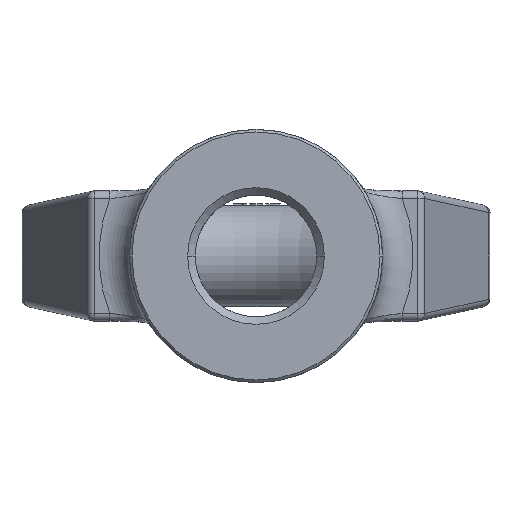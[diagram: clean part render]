
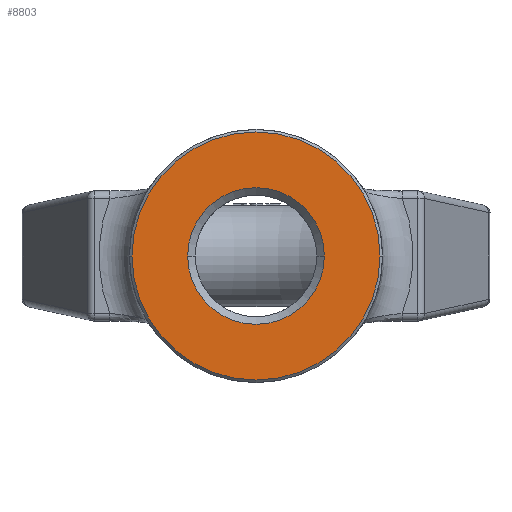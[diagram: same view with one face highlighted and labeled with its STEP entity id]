
A CAD part, front view. The second image highlights one B-rep face of the part: STEP entity #8803.
In plain terms, the highlighted planar face has unit normal (0, -1, 0).
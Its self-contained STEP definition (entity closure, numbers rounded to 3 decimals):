
#1973=CARTESIAN_POINT('',(0.,-44.5,0.));
#1974=DIRECTION('',(0.,-1.,0.));
#1975=DIRECTION('',(-1.,0.,0.));
#1976=AXIS2_PLACEMENT_3D('',#1973,#1974,#1975);
#1978=CARTESIAN_POINT('',(0.,-44.5,0.));
#1979=DIRECTION('',(0.,1.,0.));
#1980=DIRECTION('',(-1.,0.,0.));
#1981=AXIS2_PLACEMENT_3D('',#1978,#1979,#1980);
#1983=CARTESIAN_POINT('',(0.,-44.5,0.));
#1984=DIRECTION('',(0.,-1.,0.));
#1985=DIRECTION('',(-1.,0.,0.));
#1986=AXIS2_PLACEMENT_3D('',#1983,#1984,#1985);
#1988=CARTESIAN_POINT('',(0.,-44.5,0.));
#1989=DIRECTION('',(0.,-1.,0.));
#1990=DIRECTION('',(1.,0.,0.));
#1991=AXIS2_PLACEMENT_3D('',#1988,#1989,#1990);
#5936=CARTESIAN_POINT('',(-24.5,-44.5,0.));
#5937=VERTEX_POINT('',#5936);
#5938=CARTESIAN_POINT('',(24.5,-44.5,0.));
#5939=VERTEX_POINT('',#5938);
#5944=CARTESIAN_POINT('',(-13.5,-44.5,0.));
#5945=CARTESIAN_POINT('',(13.5,-44.5,0.));
#5946=VERTEX_POINT('',#5944);
#5947=VERTEX_POINT('',#5945);
#8787=CARTESIAN_POINT('',(0.,-44.5,0.));
#8788=DIRECTION('',(0.,1.,0.));
#8789=DIRECTION('',(1.,0.,0.));
#8790=AXIS2_PLACEMENT_3D('',#8787,#8788,#8789);
#8791=PLANE('',#8790);
#8793=ORIENTED_EDGE('',*,*,#8792,.F.);
#8795=ORIENTED_EDGE('',*,*,#8794,.T.);
#8796=EDGE_LOOP('',(#8793,#8795));
#8797=FACE_OUTER_BOUND('',#8796,.F.);
#8798=ORIENTED_EDGE('',*,*,#8777,.T.);
#8800=ORIENTED_EDGE('',*,*,#8799,.T.);
#8801=EDGE_LOOP('',(#8798,#8800));
#8802=FACE_BOUND('',#8801,.F.);
#8803=ADVANCED_FACE('',(#8797,#8802),#8791,.F.);
#1977=CIRCLE('',#1976,24.5);
#1982=CIRCLE('',#1981,24.5);
#1987=CIRCLE('',#1986,13.5);
#1992=CIRCLE('',#1991,13.5);
#8777=EDGE_CURVE('',#5946,#5947,#1987,.T.);
#8792=EDGE_CURVE('',#5937,#5939,#1977,.T.);
#8794=EDGE_CURVE('',#5937,#5939,#1982,.T.);
#8799=EDGE_CURVE('',#5947,#5946,#1992,.T.);
